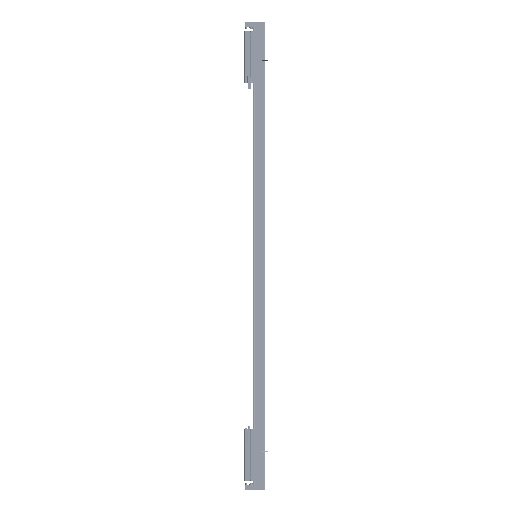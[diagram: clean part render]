
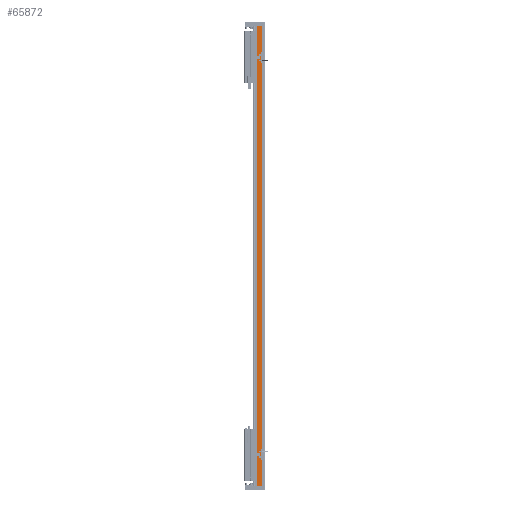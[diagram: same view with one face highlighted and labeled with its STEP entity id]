
A CAD part, left-side view. The second image highlights one B-rep face of the part: STEP entity #65872.
In plain terms, the highlighted planar face has unit normal (-1, 0, 0).
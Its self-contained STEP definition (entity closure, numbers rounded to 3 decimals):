
#5064 = ORIENTED_EDGE ( 'NONE', *, *, #35292, .T. ) ;
#9126 = CARTESIAN_POINT ( 'NONE',  ( -82.5, 36.95, 1110. ) ) ;
#10086 = PLANE ( 'NONE',  #61026 ) ;
#15611 = CARTESIAN_POINT ( 'NONE',  ( -82.5, 36.95, -1110. ) ) ;
#18452 = DIRECTION ( 'NONE',  ( 0., -1., 0. ) ) ;
#21356 = CARTESIAN_POINT ( 'NONE',  ( -82.5, 36.95, 1110. ) ) ;
#26161 = CARTESIAN_POINT ( 'NONE',  ( -82.5, 36.95, 1110. ) ) ;
#26868 = LINE ( 'NONE', #26161, #75630 ) ;
#31019 = EDGE_CURVE ( 'NONE', #127960, #43386, #26868, .T. ) ;
#32511 = CARTESIAN_POINT ( 'NONE',  ( -82.5, 14.45, 1110. ) ) ;
#35292 = EDGE_CURVE ( 'NONE', #127960, #135311, #55931, .T. ) ;
#38993 = CARTESIAN_POINT ( 'NONE',  ( -82.5, 36.95, -1110. ) ) ;
#40108 = VECTOR ( 'NONE', #66510, 1000. ) ;
#43016 = VECTOR ( 'NONE', #18452, 1000. ) ;
#43386 = VERTEX_POINT ( 'NONE', #32511 ) ;
#47685 = VERTEX_POINT ( 'NONE', #49247 ) ;
#49247 = CARTESIAN_POINT ( 'NONE',  ( -82.5, 14.45, -1110. ) ) ;
#52591 = VECTOR ( 'NONE', #138980, 1000. ) ;
#53199 = DIRECTION ( 'NONE',  ( 0., 1., 0. ) ) ;
#55220 = CARTESIAN_POINT ( 'NONE',  ( -82.5, 36.95, 1110. ) ) ;
#55386 = ORIENTED_EDGE ( 'NONE', *, *, #109932, .F. ) ;
#55931 = LINE ( 'NONE', #55220, #40108 ) ;
#59773 = ORIENTED_EDGE ( 'NONE', *, *, #67273, .T. ) ;
#61026 = AXIS2_PLACEMENT_3D ( 'NONE', #21356, #118209, #53199 ) ;
#65872 = ADVANCED_FACE ( 'NONE', ( #119594 ), #10086, .F. ) ;
#66510 = DIRECTION ( 'NONE',  ( 0., 0., -1. ) ) ;
#67273 = EDGE_CURVE ( 'NONE', #135311, #47685, #135862, .T. ) ;
#75630 = VECTOR ( 'NONE', #115189, 1000. ) ;
#82108 = ORIENTED_EDGE ( 'NONE', *, *, #31019, .F. ) ;
#83859 = LINE ( 'NONE', #126984, #52591 ) ;
#108623 = EDGE_LOOP ( 'NONE', ( #59773, #55386, #82108, #5064 ) ) ;
#109932 = EDGE_CURVE ( 'NONE', #43386, #47685, #83859, .T. ) ;
#115189 = DIRECTION ( 'NONE',  ( 0., -1., 0. ) ) ;
#118209 = DIRECTION ( 'NONE',  ( 1., 0., 0. ) ) ;
#119594 = FACE_OUTER_BOUND ( 'NONE', #108623, .T. ) ;
#126984 = CARTESIAN_POINT ( 'NONE',  ( -82.5, 14.45, 1110. ) ) ;
#127960 = VERTEX_POINT ( 'NONE', #9126 ) ;
#135311 = VERTEX_POINT ( 'NONE', #15611 ) ;
#135862 = LINE ( 'NONE', #38993, #43016 ) ;
#138980 = DIRECTION ( 'NONE',  ( 0., 0., -1. ) ) ;
